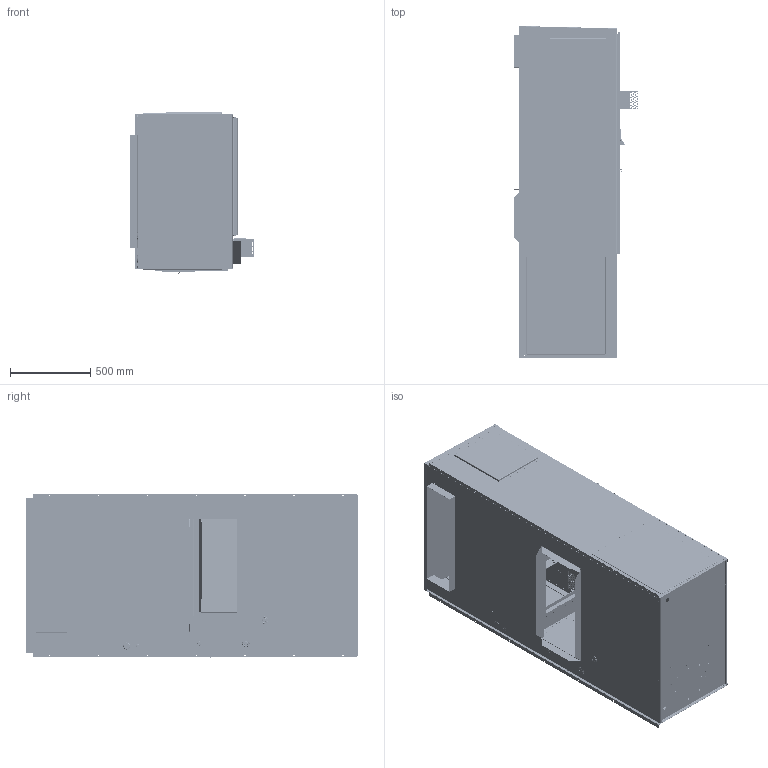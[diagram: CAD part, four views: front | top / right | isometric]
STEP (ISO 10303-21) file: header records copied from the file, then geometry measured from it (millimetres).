
FILE_DESCRIPTION (( 'STEP AP214' ), '1' );
FILE_NAME ('WG3SF.STEP', '2024-12-16T17:15:32', ( '' ), ( '' ), 'SwSTEP 2.0', 'SolidWorks 2024', '' );
FILE_SCHEMA (( 'AUTOMOTIVE_DESIGN' ));
Length unit declared in the file: inch
Products named in the file (116): 104-1113; 140-285; 106-434; 6094-011,gasket; 507-434; 5021-1005; 134-182_DefaultSM-FLAT-PATTERN; 152-804; 120-441; 1012-110; 553-804; 168-119, outer vent hood; 5021-0998; 549-144; 102-450; 5021-1001_uncompressed ins.; 5021-2836_uncompressed ins.; 100-1181; 5021-1008; 8611-057; 152-346; 523-124; 5030-002-0400; 108-496; 102-452; 5021-1002_uncompressed ins.; 1171-057; 118-083_SCREEN; 509-496; 553-346; 1921-051, gasket; 5021-0997; 132-364; 122-124; 5021-0991_uncompressed ins.; 7002-027-2600a; 5021-2838_uncompressed ins.; 5021-1004_CUT INS.; 105X1073; 1913-027-1410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
Assembly tree (162 placements, depth 4):
  WG3SF
    501-1180
      100-1180
      1012-314  x4
      5021-0988_uncompressed ins.
      5021-0989_compressed ins.
      1012-086  x2
    126-636
    501-1181
      100-1181
      5021-0991_uncompressed ins.
      5021-3170
      1171-070
      1012-314  x3
    509-496
      108-496
      5021-1001_uncompressed ins.
      5021-2839_uncompressed ins.  x2
      5021-2838_uncompressed ins.
    104-1108
    105X1073
    105Y1073
    543-269
      142-269
      5021-3167
      1913-017-1306
    507-434
      106-434
      5021-1000_uncompressed ins.
    553-804
      152-804
      5021-3171_uncompressed
      1913-017-2811
      1913-017-3300  x2
    553-346
      152-346
      138-156
      139-157
      1012-086  x4
      142-083
      5021-1008
      7002-027-2600a
      1913-006-2510
      8611-058  x4
      8611-057  x2
      5030-002-0400
      8611-059  x2
      1913-027-1410  x2
      5021-1019
      1913-064
      1913-027-1412  x2
    553-560
      152-560
      5021-1874_uncompressed
      1171-057  x2
        1171-057
        1171-056
      1913-064
    549-144
      148-144
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Bounding box: 779.51 x 2069.28 x 1019.24 mm (x, y, z)
Volume: 86415259.2 mm3; surface area: 34961347.2 mm2
Topology: 143 solids, 157 shells, 8866 faces, 23134 edges, 14109 vertices
Faces by surface type: cylinder 3862, plane 3852, torus 772, bspline 262, cone 98, sphere 20
Full cylindrical faces by diameter (mm): 9.525 x1
Entity records: 263580 total; most frequent: CARTESIAN_POINT 65753, ORIENTED_EDGE 41044, DIRECTION 40179, EDGE_CURVE 20539, AXIS2_PLACEMENT_3D 14590, VERTEX_POINT 12490, LINE 10999, VECTOR 10999
